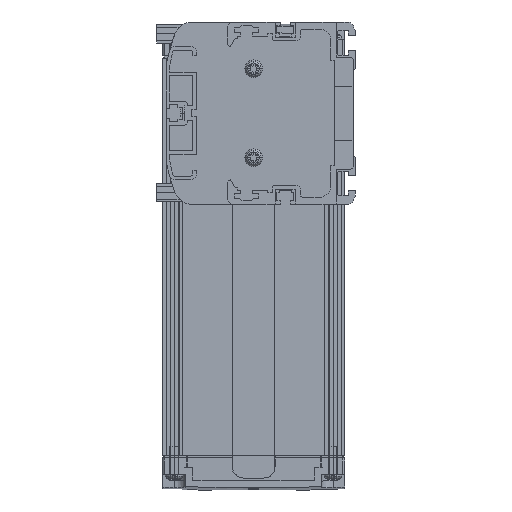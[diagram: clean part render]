
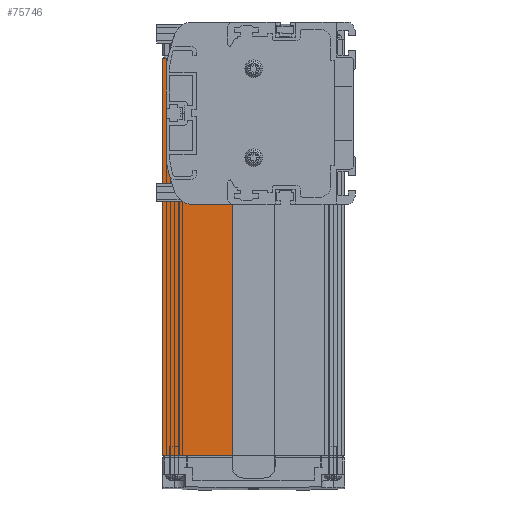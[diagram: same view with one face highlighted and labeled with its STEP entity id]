
A CAD part, left-side view. The second image highlights one B-rep face of the part: STEP entity #75746.
In plain terms, the highlighted planar face has unit normal (-1, 0, 0).
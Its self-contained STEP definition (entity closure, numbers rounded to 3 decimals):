
#73687=DIRECTION('',(0.,0.,1.));
#73688=VECTOR('',#73687,51.);
#73689=CARTESIAN_POINT('',(3.,70.5,-27.5));
#73690=LINE('',#73689,#73688);
#74336=DIRECTION('',(0.,0.,1.));
#74337=VECTOR('',#74336,170.);
#74338=CARTESIAN_POINT('',(3.,82.5,-146.5));
#74339=LINE('',#74338,#74337);
#74354=DIRECTION('',(0.,-1.,0.));
#74355=VECTOR('',#74354,29.9);
#74356=CARTESIAN_POINT('',(3.,82.5,-146.5));
#74357=LINE('',#74356,#74355);
#74358=DIRECTION('',(0.,1.,0.));
#74359=VECTOR('',#74358,12.);
#74360=CARTESIAN_POINT('',(3.,70.5,23.5));
#74361=LINE('',#74360,#74359);
#74362=DIRECTION('',(0.,1.,0.));
#74363=VECTOR('',#74362,17.9);
#74364=CARTESIAN_POINT('',(3.,52.6,-27.5));
#74365=LINE('',#74364,#74363);
#74472=DIRECTION('',(0.,0.,1.));
#74473=VECTOR('',#74472,119.);
#74474=CARTESIAN_POINT('',(3.,52.6,-146.5));
#74475=LINE('',#74474,#74473);
#74559=CARTESIAN_POINT('',(3.,70.5,23.5));
#74561=VERTEX_POINT('',#74559);
#74653=CARTESIAN_POINT('',(3.,82.5,23.5));
#74654=VERTEX_POINT('',#74653);
#74727=CARTESIAN_POINT('',(3.,82.5,-146.5));
#74728=VERTEX_POINT('',#74727);
#74729=CARTESIAN_POINT('',(3.,52.6,-146.5));
#74730=VERTEX_POINT('',#74729);
#74791=CARTESIAN_POINT('',(3.,70.5,-27.5));
#74792=VERTEX_POINT('',#74791);
#74793=CARTESIAN_POINT('',(3.,52.6,-27.5));
#74794=VERTEX_POINT('',#74793);
#75731=CARTESIAN_POINT('',(3.,67.55,-61.5));
#75732=DIRECTION('',(1.,0.,0.));
#75733=DIRECTION('',(0.,1.,0.));
#75734=AXIS2_PLACEMENT_3D('',#75731,#75732,#75733);
#75735=PLANE('',#75734);
#75736=ORIENTED_EDGE('',*,*,#74977,.F.);
#75738=ORIENTED_EDGE('',*,*,#75737,.F.);
#75740=ORIENTED_EDGE('',*,*,#75739,.F.);
#75741=ORIENTED_EDGE('',*,*,#75305,.F.);
#75742=ORIENTED_EDGE('',*,*,#75719,.T.);
#75743=ORIENTED_EDGE('',*,*,#74846,.F.);
#75744=EDGE_LOOP('',(#75736,#75738,#75740,#75741,#75742,#75743));
#75745=FACE_OUTER_BOUND('',#75744,.F.);
#75746=ADVANCED_FACE('',(#75745),#75735,.F.);
#74846=EDGE_CURVE('',#74561,#74654,#74361,.T.);
#74977=EDGE_CURVE('',#74792,#74561,#73690,.T.);
#75305=EDGE_CURVE('',#74728,#74730,#74357,.T.);
#75719=EDGE_CURVE('',#74728,#74654,#74339,.T.);
#75737=EDGE_CURVE('',#74794,#74792,#74365,.T.);
#75739=EDGE_CURVE('',#74730,#74794,#74475,.T.);
